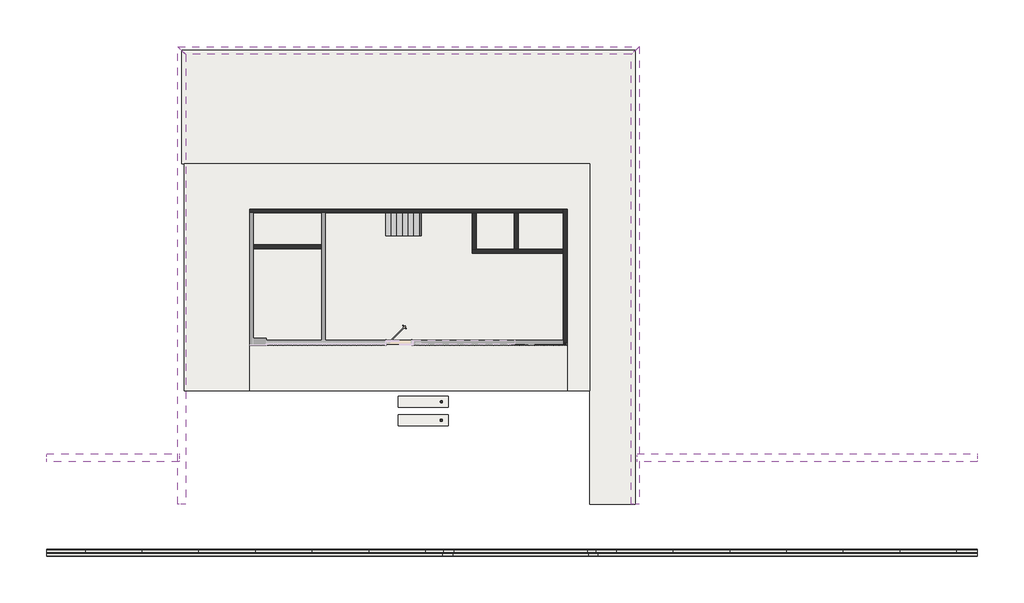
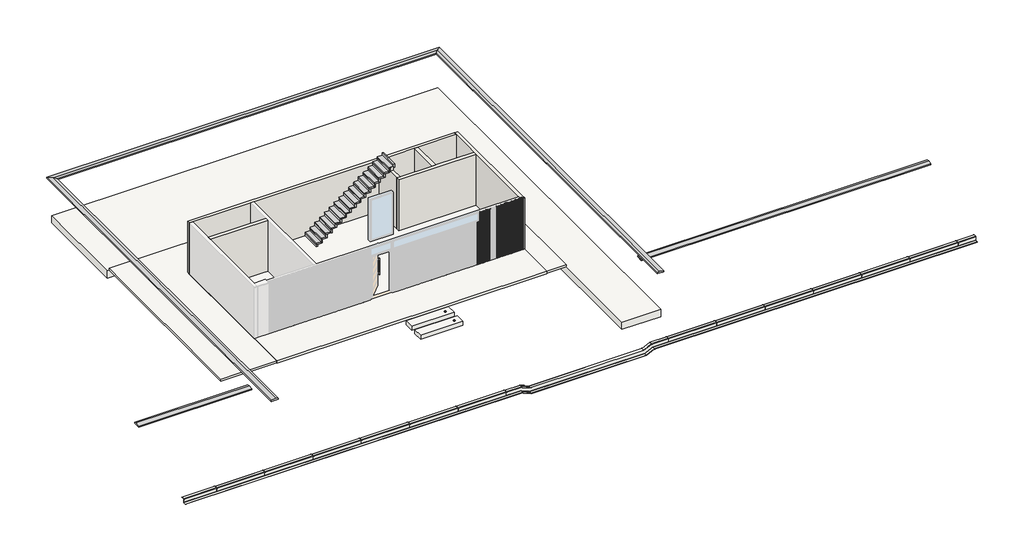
# One storey, part 4 of 4: 36 members, 34 plates, 6 slabs, 6 walls, 5 proxies, 2 light fixtures, 1 stair flight.
"""IFC4 building model written with IfcOpenShell, lengths in millimetres."""

from ifc_helpers import new_model, si_unit, point, frame, frame_2d, origin, origin_with_axes, place, context, project, spatial, polyline, circle_curve, trimmed, segment, composite_curve, outline, extrude, faceted_brep, transform, mapped, element, save
from ifc_brep_helpers import plane_surface, revolved_surface, advanced_brep
from components import light_fixture_10b4d906, montante_retangular_912e170b, montante_retangular_66be1dba, painel_do_sistema_vazio_vazio_cd5fe1bf, painel_do_sistema_vazio_vazio_22f7d0d9, painel_do_sistema_vazio_vazio_0f527706, painel_do_sistema_vazio_vazio_7123cc3e, pisos_1_pisos_1_989e87d9, stair_flight_7ba0d2e9

model = new_model("IFC4")

# Units and contexts
model_context = context("Model", 3, world=origin())
ifc_project = project(units=[si_unit("LENGTHUNIT", "METRE", prefix="MILLI")], contexts=[model_context])

# Site, building, storey
site = spatial("IfcSite", under=ifc_project)
building = spatial("IfcBuilding", under=site)
storey = spatial("IfcBuildingStorey", under=building, Name="TÉRREO", Elevation=100.0)

# Proxies
placement = place(None, origin())
element("IfcBuildingElementProxy", 1, Name="Wall Sweeps", at=placement, inside=storey, context=model_context, shape_type="Brep", body=[
    faceted_brep([(-16651.5118355, -8375.3717183, 1561.9), (-16651.5118355, -8375.3717183, 1500.0), (-16651.5118355, -8320.3717183, 1500.0), (-16651.5118355, -8100.3717183, 1500.0), (-16651.5118355, -8025.3717183, 1500.0), (-16651.5118355, -8025.3717183, 1561.9), (-16651.5118355, -8151.9717183, 1600.0), (-22493.1118355, -8375.3717183, 1561.9), (-22493.1118355, -8151.9717183, 1600.0), (-22493.1118355, -8025.3717183, 1561.9), (-22493.1118355, -8025.3717183, 1500.0), (-22493.1118355, -8100.3717183, 1500.0), (-22493.1118355, -8320.3717183, 1500.0), (-22493.1118355, -8375.3717183, 1500.0)], [[[0, 1, 2, 3, 4, 5, 6]], [[7, 8, 9, 10, 11, 12, 13]], [[1, 0, 7, 13]], [[4, 3, 2, 1, 13, 12, 11, 10]], [[5, 4, 10, 9]], [[6, 5, 9, 8]], [[0, 6, 8, 7]]]),
])
element("IfcBuildingElementProxy", 2, Name="Wall Sweeps", at=placement, inside=storey, context=model_context, shape_type="Brep", body=[
    faceted_brep([(3539.0313852, -8375.3717183, 1561.9), (3539.0313852, -8151.9717183, 1600.0), (3539.0313852, -8025.3717183, 1561.9), (3539.0313852, -8025.3717183, 1500.0), (3539.0313852, -8375.3717183, 1500.0), (18539.0313852, -8375.3717183, 1561.9), (18539.0313852, -8375.3717183, 1500.0), (18539.0313852, -8320.3717183, 1500.0), (18539.0313852, -8100.3717183, 1500.0), (18539.0313852, -8025.3717183, 1500.0), (18539.0313852, -8025.3717183, 1561.9), (18539.0313852, -8151.9717183, 1600.0)], [[[0, 1, 2, 3, 4]], [[5, 6, 7, 8, 9, 10, 11]], [[0, 4, 6, 5]], [[4, 3, 9, 8, 7, 6]], [[3, 2, 10, 9]], [[2, 1, 11, 10]], [[1, 0, 5, 11]]]),
])
element("IfcBuildingElementProxy", 3, Name="Wall Sweeps", at=placement, inside=storey, context=model_context, shape_type="Brep", body=[
    faceted_brep([(-16706.5118355, -10233.9118273, 2061.9), (-16706.5118355, -10233.9118273, 2000.0), (-16651.5118355, -10233.9118273, 2000.0), (-16431.5118355, -10233.9118273, 2000.0), (-16356.5118355, -10233.9118273, 2000.0), (-16356.5118355, -10233.9118273, 2061.9), (-16483.1118355, -10233.9118273, 2100.0), (-16706.5118355, 9931.0881727, 2061.9), (-16483.1118355, 9707.6881727, 2100.0), (-16356.5118355, 9581.0881727, 2061.9), (-16356.5118355, 9581.0881727, 2000.0), (-16706.5118355, 9931.0881727, 2000.0)], [[[0, 1, 2, 3, 4, 5, 6]], [[7, 8, 9, 10, 11]], [[1, 0, 7, 11]], [[4, 3, 2, 1, 11, 10]], [[5, 4, 10, 9]], [[6, 5, 9, 8]], [[0, 6, 8, 7]]]),
])
element("IfcBuildingElementProxy", 4, Name="Wall Sweeps", at=placement, inside=storey, context=model_context, shape_type="Brep", body=[
    faceted_brep([(-16706.5118355, 9931.0881727, 2061.9), (-16706.5118355, 9931.0881727, 2000.0), (-16356.5118355, 9581.0881727, 2000.0), (-16356.5118355, 9581.0881727, 2061.9), (-16483.1118355, 9707.6881727, 2100.0), (3623.4881645, 9931.0881727, 2061.9), (3400.0881645, 9707.6881727, 2100.0), (3273.4881645, 9581.0881727, 2061.9), (3273.4881645, 9581.0881727, 2000.0), (3623.4881645, 9931.0881727, 2000.0)], [[[0, 1, 2, 3, 4]], [[5, 6, 7, 8, 9]], [[1, 0, 5, 9]], [[2, 1, 9, 8]], [[3, 2, 8, 7]], [[4, 3, 7, 6]], [[0, 4, 6, 5]]]),
])
element("IfcBuildingElementProxy", 5, Name="Wall Sweeps", at=placement, inside=storey, context=model_context, shape_type="Brep", body=[
    faceted_brep([(3623.4881645, 9931.0881727, 2061.9), (3623.4881645, 9931.0881727, 2000.0), (3273.4881645, 9581.0881727, 2000.0), (3273.4881645, 9581.0881727, 2061.9), (3400.0881645, 9707.6881727, 2100.0), (3623.4881645, -10233.9118273, 2061.9), (3400.0881645, -10233.9118273, 2100.0), (3273.4881645, -10233.9118273, 2061.9), (3273.4881645, -10233.9118273, 2000.0), (3348.4881645, -10233.9118273, 2000.0), (3568.4881645, -10233.9118273, 2000.0), (3623.4881645, -10233.9118273, 2000.0)], [[[0, 1, 2, 3, 4]], [[5, 6, 7, 8, 9, 10, 11]], [[1, 0, 5, 11]], [[2, 1, 11, 10, 9, 8]], [[3, 2, 8, 7]], [[4, 3, 7, 6]], [[0, 4, 6, 5]]]),
])

# Light fixtures
light_fixture_shape = light_fixture_10b4d906(model_context)
element("IfcLightFixture", 6, ObjectType="Iluminação de caminho - Redonda embutida - Com base no chão : Iluminação de caminho - Redonda embutida - Com base no chão", at=placement, inside=storey, context=model_context, shape_type="MappedRepresentation", body=[
    mapped(light_fixture_shape, transform((-5091.5118355, -5727.3839203, 130.0), x_axis=(1.0, 0.0, 0.0), y_axis=(0.0, 1.0, 0.0), z_axis=(0.0, 0.0, 1.0))),
])
element("IfcLightFixture", 7, ObjectType="Iluminação de caminho - Redonda embutida - Com base no chão : Iluminação de caminho - Redonda embutida - Com base no chão", at=placement, inside=storey, context=model_context, shape_type="MappedRepresentation", body=[
    mapped(light_fixture_shape, transform((-5096.5118355, -6538.3839203, 130.0), x_axis=(1.0, 0.0, 0.0), y_axis=(0.0, 1.0, 0.0), z_axis=(0.0, 0.0, 1.0))),
])

# Members
montante_retangular_shape = montante_retangular_912e170b(model_context)
element("IfcMember", 8, ObjectType="Montante retangular : RIPADO CUMARU 4x4", at=placement, inside=storey, context=model_context, shape_type="MappedRepresentation", body=[
    mapped(montante_retangular_shape, transform((-986.5118358, -3183.0556256, 100.0), x_axis=(1.0, 0.0, 0.0), y_axis=(0.0, -1.0, 0.0), z_axis=(0.0, 0.0, -1.0))),
])
element("IfcMember", 9, ObjectType="Montante retangular : RIPADO CUMARU 4x4", at=placement, inside=storey, context=model_context, shape_type="MappedRepresentation", body=[
    mapped(montante_retangular_shape, transform((-926.5118358, -3183.0556256, 100.0), x_axis=(1.0, 0.0, 0.0), y_axis=(0.0, -1.0, 0.0), z_axis=(0.0, 0.0, -1.0))),
])
element("IfcMember", 10, ObjectType="Montante retangular : RIPADO CUMARU 4x4", at=placement, inside=storey, context=model_context, shape_type="MappedRepresentation", body=[
    mapped(montante_retangular_shape, transform((-866.5118358, -3183.0556256, 100.0), x_axis=(1.0, 0.0, 0.0), y_axis=(0.0, -1.0, 0.0), z_axis=(0.0, 0.0, -1.0))),
])
element("IfcMember", 11, ObjectType="Montante retangular : RIPADO CUMARU 4x4", at=placement, inside=storey, context=model_context, shape_type="MappedRepresentation", body=[
    mapped(montante_retangular_shape, transform((-806.5118358, -3183.0556256, 100.0), x_axis=(1.0, 0.0, 0.0), y_axis=(0.0, -1.0, 0.0), z_axis=(0.0, 0.0, -1.0))),
])
element("IfcMember", 12, ObjectType="Montante retangular : RIPADO CUMARU 4x4", at=placement, inside=storey, context=model_context, shape_type="MappedRepresentation", body=[
    mapped(montante_retangular_shape, transform((-746.5118358, -3183.0556256, 100.0), x_axis=(1.0, 0.0, 0.0), y_axis=(0.0, -1.0, 0.0), z_axis=(0.0, 0.0, -1.0))),
])
element("IfcMember", 13, ObjectType="Montante retangular : RIPADO CUMARU 4x4", at=placement, inside=storey, context=model_context, shape_type="MappedRepresentation", body=[
    mapped(montante_retangular_shape, transform((-686.5118358, -3183.0556256, 100.0), x_axis=(1.0, 0.0, 0.0), y_axis=(0.0, -1.0, 0.0), z_axis=(0.0, 0.0, -1.0))),
])
element("IfcMember", 14, ObjectType="Montante retangular : RIPADO CUMARU 4x4", at=placement, inside=storey, context=model_context, shape_type="MappedRepresentation", body=[
    mapped(montante_retangular_shape, transform((-626.5118358, -3183.0556256, 100.0), x_axis=(1.0, 0.0, 0.0), y_axis=(0.0, -1.0, 0.0), z_axis=(0.0, 0.0, -1.0))),
])
element("IfcMember", 15, ObjectType="Montante retangular : RIPADO CUMARU 4x4", at=placement, inside=storey, context=model_context, shape_type="MappedRepresentation", body=[
    mapped(montante_retangular_shape, transform((-566.5118358, -3183.0556256, 100.0), x_axis=(1.0, 0.0, 0.0), y_axis=(0.0, -1.0, 0.0), z_axis=(0.0, 0.0, -1.0))),
])
element("IfcMember", 16, ObjectType="Montante retangular : RIPADO CUMARU 4x4", at=placement, inside=storey, context=model_context, shape_type="MappedRepresentation", body=[
    mapped(montante_retangular_shape, transform((-506.5118358, -3183.0556256, 100.0), x_axis=(1.0, 0.0, 0.0), y_axis=(0.0, -1.0, 0.0), z_axis=(0.0, 0.0, -1.0))),
])
element("IfcMember", 17, ObjectType="Montante retangular : RIPADO CUMARU 4x4", at=placement, inside=storey, context=model_context, shape_type="MappedRepresentation", body=[
    mapped(montante_retangular_shape, transform((-446.5118358, -3183.0556256, 100.0), x_axis=(1.0, 0.0, 0.0), y_axis=(0.0, -1.0, 0.0), z_axis=(0.0, 0.0, -1.0))),
])
element("IfcMember", 18, ObjectType="Montante retangular : RIPADO CUMARU 4x4", at=placement, inside=storey, context=model_context, shape_type="MappedRepresentation", body=[
    mapped(montante_retangular_shape, transform((-386.5118358, -3183.0556256, 100.0), x_axis=(1.0, 0.0, 0.0), y_axis=(0.0, -1.0, 0.0), z_axis=(0.0, 0.0, -1.0))),
])
element("IfcMember", 19, ObjectType="Montante retangular : RIPADO CUMARU 4x4", at=placement, inside=storey, context=model_context, shape_type="MappedRepresentation", body=[
    mapped(montante_retangular_shape, transform((-326.5118358, -3183.0556256, 100.0), x_axis=(1.0, 0.0, 0.0), y_axis=(0.0, -1.0, 0.0), z_axis=(0.0, 0.0, -1.0))),
])
element("IfcMember", 20, ObjectType="Montante retangular : RIPADO CUMARU 4x4", at=placement, inside=storey, context=model_context, shape_type="MappedRepresentation", body=[
    mapped(montante_retangular_shape, transform((-266.5118358, -3183.0556256, 100.0), x_axis=(1.0, 0.0, 0.0), y_axis=(0.0, -1.0, 0.0), z_axis=(0.0, 0.0, -1.0))),
])
element("IfcMember", 21, ObjectType="Montante retangular : RIPADO CUMARU 4x4", at=placement, inside=storey, context=model_context, shape_type="MappedRepresentation", body=[
    mapped(montante_retangular_shape, transform((-206.5118358, -3183.0556256, 100.0), x_axis=(1.0, 0.0, 0.0), y_axis=(0.0, -1.0, 0.0), z_axis=(0.0, 0.0, -1.0))),
])
element("IfcMember", 22, ObjectType="Montante retangular : RIPADO CUMARU 4x4", at=placement, inside=storey, context=model_context, shape_type="MappedRepresentation", body=[
    mapped(montante_retangular_shape, transform((-146.5118358, -3183.0556256, 100.0), x_axis=(1.0, 0.0, 0.0), y_axis=(0.0, -1.0, 0.0), z_axis=(0.0, 0.0, -1.0))),
])
element("IfcMember", 23, ObjectType="Montante retangular : RIPADO CUMARU 4x4", at=placement, inside=storey, context=model_context, shape_type="MappedRepresentation", body=[
    mapped(montante_retangular_shape, transform((-86.5118358, -3183.0556256, 100.0), x_axis=(1.0, 0.0, 0.0), y_axis=(0.0, -1.0, 0.0), z_axis=(0.0, 0.0, -1.0))),
])
element("IfcMember", 24, ObjectType="Montante retangular : RIPADO CUMARU 4x4", at=placement, inside=storey, context=model_context, shape_type="MappedRepresentation", body=[
    mapped(montante_retangular_shape, transform((-26.5118358, -3183.0556256, 100.0), x_axis=(1.0, 0.0, 0.0), y_axis=(0.0, -1.0, 0.0), z_axis=(0.0, 0.0, -1.0))),
])
element("IfcMember", 25, ObjectType="Montante retangular : RIPADO CUMARU 4x4", at=placement, inside=storey, context=model_context, shape_type="MappedRepresentation", body=[
    mapped(montante_retangular_shape, transform((33.4881642, -3183.0556256, 100.0), x_axis=(1.0, 0.0, 0.0), y_axis=(0.0, -1.0, 0.0), z_axis=(0.0, 0.0, -1.0))),
])
element("IfcMember", 26, ObjectType="Montante retangular : RIPADO CUMARU 4x4", at=placement, inside=storey, context=model_context, shape_type="MappedRepresentation", body=[
    mapped(montante_retangular_shape, transform((93.4881642, -3183.0556256, 100.0), x_axis=(1.0, 0.0, 0.0), y_axis=(0.0, -1.0, 0.0), z_axis=(0.0, 0.0, -1.0))),
])
element("IfcMember", 27, ObjectType="Montante retangular : RIPADO CUMARU 4x4", at=placement, inside=storey, context=model_context, shape_type="MappedRepresentation", body=[
    mapped(montante_retangular_shape, transform((153.4881642, -3183.0556256, 100.0), x_axis=(1.0, 0.0, 0.0), y_axis=(0.0, -1.0, 0.0), z_axis=(0.0, 0.0, -1.0))),
])
element("IfcMember", 28, ObjectType="Montante retangular : RIPADO CUMARU 4x4", at=placement, inside=storey, context=model_context, shape_type="MappedRepresentation", body=[
    mapped(montante_retangular_shape, transform((213.4881642, -3183.0556256, 100.0), x_axis=(1.0, 0.0, 0.0), y_axis=(0.0, -1.0, 0.0), z_axis=(0.0, 0.0, -1.0))),
])
element("IfcMember", 29, ObjectType="Montante retangular : RIPADO CUMARU 4x4", at=placement, inside=storey, context=model_context, shape_type="MappedRepresentation", body=[
    mapped(montante_retangular_shape, transform((273.4881642, -3183.0556256, 100.0), x_axis=(1.0, 0.0, 0.0), y_axis=(0.0, -1.0, 0.0), z_axis=(0.0, 0.0, -1.0))),
])
element("IfcMember", 30, ObjectType="Montante retangular : RIPADO CUMARU 4x4", at=placement, inside=storey, context=model_context, shape_type="MappedRepresentation", body=[
    mapped(montante_retangular_shape, transform((333.4881642, -3183.0556256, 100.0), x_axis=(1.0, 0.0, 0.0), y_axis=(0.0, -1.0, 0.0), z_axis=(0.0, 0.0, -1.0))),
])
element("IfcMember", 31, ObjectType="Montante retangular : RIPADO CUMARU 4x4", at=placement, inside=storey, context=model_context, shape_type="MappedRepresentation", body=[
    mapped(montante_retangular_shape, transform((393.4881642, -3183.0556256, 100.0), x_axis=(1.0, 0.0, 0.0), y_axis=(0.0, -1.0, 0.0), z_axis=(0.0, 0.0, -1.0))),
])
element("IfcMember", 32, ObjectType="Montante retangular : RIPADO CUMARU 4x4", at=placement, inside=storey, context=model_context, shape_type="MappedRepresentation", body=[
    mapped(montante_retangular_shape, transform((-1286.5118358, -3183.0556256, 100.0), x_axis=(1.0, 0.0, 0.0), y_axis=(0.0, -1.0, 0.0), z_axis=(0.0, 0.0, -1.0))),
])
element("IfcMember", 33, ObjectType="Montante retangular : RIPADO CUMARU 4x4", at=placement, inside=storey, context=model_context, shape_type="MappedRepresentation", body=[
    mapped(montante_retangular_shape, transform((-1346.5118358, -3183.0556256, 100.0), x_axis=(1.0, 0.0, 0.0), y_axis=(0.0, -1.0, 0.0), z_axis=(0.0, 0.0, -1.0))),
])
element("IfcMember", 34, ObjectType="Montante retangular : RIPADO CUMARU 4x4", at=placement, inside=storey, context=model_context, shape_type="MappedRepresentation", body=[
    mapped(montante_retangular_shape, transform((-1406.5118358, -3183.0556256, 100.0), x_axis=(1.0, 0.0, 0.0), y_axis=(0.0, -1.0, 0.0), z_axis=(0.0, 0.0, -1.0))),
])
element("IfcMember", 35, ObjectType="Montante retangular : RIPADO CUMARU 4x4", at=placement, inside=storey, context=model_context, shape_type="MappedRepresentation", body=[
    mapped(montante_retangular_shape, transform((-1466.5118358, -3183.0556256, 100.0), x_axis=(1.0, 0.0, 0.0), y_axis=(0.0, -1.0, 0.0), z_axis=(0.0, 0.0, -1.0))),
])
element("IfcMember", 36, ObjectType="Montante retangular : RIPADO CUMARU 4x4", at=placement, inside=storey, context=model_context, shape_type="MappedRepresentation", body=[
    mapped(montante_retangular_shape, transform((-1526.5118358, -3183.0556256, 100.0), x_axis=(1.0, 0.0, 0.0), y_axis=(0.0, -1.0, 0.0), z_axis=(0.0, 0.0, -1.0))),
])
element("IfcMember", 37, ObjectType="Montante retangular : RIPADO CUMARU 4x4", at=placement, inside=storey, context=model_context, shape_type="MappedRepresentation", body=[
    mapped(montante_retangular_shape, transform((-1586.5118358, -3183.0556256, 100.0), x_axis=(1.0, 0.0, 0.0), y_axis=(0.0, -1.0, 0.0), z_axis=(0.0, 0.0, -1.0))),
])
element("IfcMember", 38, ObjectType="Montante retangular : RIPADO CUMARU 4x4", at=placement, inside=storey, context=model_context, shape_type="MappedRepresentation", body=[
    mapped(montante_retangular_shape, transform((-1646.5118358, -3183.0556256, 100.0), x_axis=(1.0, 0.0, 0.0), y_axis=(0.0, -1.0, 0.0), z_axis=(0.0, 0.0, -1.0))),
])
element("IfcMember", 39, ObjectType="Montante retangular : RIPADO CUMARU 4x4", at=placement, inside=storey, context=model_context, shape_type="MappedRepresentation", body=[
    mapped(montante_retangular_shape, transform((-1706.5118358, -3183.0556256, 100.0), x_axis=(1.0, 0.0, 0.0), y_axis=(0.0, -1.0, 0.0), z_axis=(0.0, 0.0, -1.0))),
])
element("IfcMember", 40, ObjectType="Montante retangular : RIPADO CUMARU 4x4", at=placement, inside=storey, context=model_context, shape_type="MappedRepresentation", body=[
    mapped(montante_retangular_shape, transform((-1766.5118358, -3183.0556256, 100.0), x_axis=(1.0, 0.0, 0.0), y_axis=(0.0, -1.0, 0.0), z_axis=(0.0, 0.0, -1.0))),
])
element("IfcMember", 41, ObjectType="Montante retangular : RIPADO CUMARU 4x4", at=placement, inside=storey, context=model_context, shape_type="MappedRepresentation", body=[
    mapped(montante_retangular_shape, transform((-1826.5118358, -3183.0556256, 100.0), x_axis=(1.0, 0.0, 0.0), y_axis=(0.0, -1.0, 0.0), z_axis=(0.0, 0.0, -1.0))),
])
montante_retangular_2_shape = montante_retangular_66be1dba(model_context)
element("IfcMember", 42, ObjectType="Montante retangular : RIPADO CUMARU 4x4", at=placement, inside=storey, context=model_context, shape_type="MappedRepresentation", body=[
    mapped(montante_retangular_2_shape, transform((-1951.5118352, -3183.0556256, 100.0), x_axis=(1.0, 0.0, 0.0), y_axis=(0.0, -1.0, 0.0), z_axis=(0.0, 0.0, -1.0))),
])
element("IfcMember", 43, ObjectType="Montante retangular : RIPADO CUMARU 4x4", at=placement, inside=storey, context=model_context, shape_type="MappedRepresentation", body=[
    mapped(montante_retangular_2_shape, transform((-1891.5118352, -3183.0556256, 100.0), x_axis=(1.0, 0.0, 0.0), y_axis=(0.0, -1.0, 0.0), z_axis=(0.0, 0.0, -1.0))),
])

# Plates
painel_do_sistema_vazio_vazio_shape = painel_do_sistema_vazio_vazio_cd5fe1bf(model_context)
element("IfcPlate", 44, ObjectType="Painel do sistema vazio : Vazio", at=placement, inside=storey, context=model_context, shape_type="MappedRepresentation", body=[
    mapped(painel_do_sistema_vazio_vazio_shape, transform((433.4881643, -3183.0556256, 100.0), x_axis=(1.0, 0.0, 0.0), y_axis=(0.0, 1.0, 0.0), z_axis=(0.0, 0.0, 1.0))),
])
painel_do_sistema_vazio_vazio_2_shape = painel_do_sistema_vazio_vazio_22f7d0d9(model_context)
element("IfcPlate", 45, ObjectType="Painel do sistema vazio : Vazio", at=placement, inside=storey, context=model_context, shape_type="MappedRepresentation", body=[
    mapped(painel_do_sistema_vazio_vazio_2_shape, transform((-956.5118358, -3183.0556256, 100.0), x_axis=(1.0, 0.0, 0.0), y_axis=(0.0, 1.0, 0.0), z_axis=(0.0, 0.0, 1.0))),
])
element("IfcPlate", 46, ObjectType="Painel do sistema vazio : Vazio", at=placement, inside=storey, context=model_context, shape_type="MappedRepresentation", body=[
    mapped(painel_do_sistema_vazio_vazio_2_shape, transform((-896.5118358, -3183.0556256, 100.0), x_axis=(1.0, 0.0, 0.0), y_axis=(0.0, 1.0, 0.0), z_axis=(0.0, 0.0, 1.0))),
])
element("IfcPlate", 47, ObjectType="Painel do sistema vazio : Vazio", at=placement, inside=storey, context=model_context, shape_type="MappedRepresentation", body=[
    mapped(painel_do_sistema_vazio_vazio_2_shape, transform((-836.5118358, -3183.0556256, 100.0), x_axis=(1.0, 0.0, 0.0), y_axis=(0.0, 1.0, 0.0), z_axis=(0.0, 0.0, 1.0))),
])
element("IfcPlate", 48, ObjectType="Painel do sistema vazio : Vazio", at=placement, inside=storey, context=model_context, shape_type="MappedRepresentation", body=[
    mapped(painel_do_sistema_vazio_vazio_2_shape, transform((-776.5118358, -3183.0556256, 100.0), x_axis=(1.0, 0.0, 0.0), y_axis=(0.0, 1.0, 0.0), z_axis=(0.0, 0.0, 1.0))),
])
element("IfcPlate", 49, ObjectType="Painel do sistema vazio : Vazio", at=placement, inside=storey, context=model_context, shape_type="MappedRepresentation", body=[
    mapped(painel_do_sistema_vazio_vazio_2_shape, transform((-716.5118358, -3183.0556256, 100.0), x_axis=(1.0, 0.0, 0.0), y_axis=(0.0, 1.0, 0.0), z_axis=(0.0, 0.0, 1.0))),
])
element("IfcPlate", 50, ObjectType="Painel do sistema vazio : Vazio", at=placement, inside=storey, context=model_context, shape_type="MappedRepresentation", body=[
    mapped(painel_do_sistema_vazio_vazio_2_shape, transform((-656.5118358, -3183.0556256, 100.0), x_axis=(1.0, 0.0, 0.0), y_axis=(0.0, 1.0, 0.0), z_axis=(0.0, 0.0, 1.0))),
])
element("IfcPlate", 51, ObjectType="Painel do sistema vazio : Vazio", at=placement, inside=storey, context=model_context, shape_type="MappedRepresentation", body=[
    mapped(painel_do_sistema_vazio_vazio_2_shape, transform((-596.5118358, -3183.0556256, 100.0), x_axis=(1.0, 0.0, 0.0), y_axis=(0.0, 1.0, 0.0), z_axis=(0.0, 0.0, 1.0))),
])
element("IfcPlate", 52, ObjectType="Painel do sistema vazio : Vazio", at=placement, inside=storey, context=model_context, shape_type="MappedRepresentation", body=[
    mapped(painel_do_sistema_vazio_vazio_2_shape, transform((-536.5118358, -3183.0556256, 100.0), x_axis=(1.0, 0.0, 0.0), y_axis=(0.0, 1.0, 0.0), z_axis=(0.0, 0.0, 1.0))),
])
element("IfcPlate", 53, ObjectType="Painel do sistema vazio : Vazio", at=placement, inside=storey, context=model_context, shape_type="MappedRepresentation", body=[
    mapped(painel_do_sistema_vazio_vazio_2_shape, transform((-476.5118358, -3183.0556256, 100.0), x_axis=(1.0, 0.0, 0.0), y_axis=(0.0, 1.0, 0.0), z_axis=(0.0, 0.0, 1.0))),
])
element("IfcPlate", 54, ObjectType="Painel do sistema vazio : Vazio", at=placement, inside=storey, context=model_context, shape_type="MappedRepresentation", body=[
    mapped(painel_do_sistema_vazio_vazio_2_shape, transform((-416.5118358, -3183.0556256, 100.0), x_axis=(1.0, 0.0, 0.0), y_axis=(0.0, 1.0, 0.0), z_axis=(0.0, 0.0, 1.0))),
])
element("IfcPlate", 55, ObjectType="Painel do sistema vazio : Vazio", at=placement, inside=storey, context=model_context, shape_type="MappedRepresentation", body=[
    mapped(painel_do_sistema_vazio_vazio_2_shape, transform((-356.5118358, -3183.0556256, 100.0), x_axis=(1.0, 0.0, 0.0), y_axis=(0.0, 1.0, 0.0), z_axis=(0.0, 0.0, 1.0))),
])
element("IfcPlate", 56, ObjectType="Painel do sistema vazio : Vazio", at=placement, inside=storey, context=model_context, shape_type="MappedRepresentation", body=[
    mapped(painel_do_sistema_vazio_vazio_2_shape, transform((-296.5118358, -3183.0556256, 100.0), x_axis=(1.0, 0.0, 0.0), y_axis=(0.0, 1.0, 0.0), z_axis=(0.0, 0.0, 1.0))),
])
element("IfcPlate", 57, ObjectType="Painel do sistema vazio : Vazio", at=placement, inside=storey, context=model_context, shape_type="MappedRepresentation", body=[
    mapped(painel_do_sistema_vazio_vazio_2_shape, transform((-236.5118358, -3183.0556256, 100.0), x_axis=(1.0, 0.0, 0.0), y_axis=(0.0, 1.0, 0.0), z_axis=(0.0, 0.0, 1.0))),
])
element("IfcPlate", 58, ObjectType="Painel do sistema vazio : Vazio", at=placement, inside=storey, context=model_context, shape_type="MappedRepresentation", body=[
    mapped(painel_do_sistema_vazio_vazio_2_shape, transform((-176.5118358, -3183.0556256, 100.0), x_axis=(1.0, 0.0, 0.0), y_axis=(0.0, 1.0, 0.0), z_axis=(0.0, 0.0, 1.0))),
])
element("IfcPlate", 59, ObjectType="Painel do sistema vazio : Vazio", at=placement, inside=storey, context=model_context, shape_type="MappedRepresentation", body=[
    mapped(painel_do_sistema_vazio_vazio_2_shape, transform((-116.5118358, -3183.0556256, 100.0), x_axis=(1.0, 0.0, 0.0), y_axis=(0.0, 1.0, 0.0), z_axis=(0.0, 0.0, 1.0))),
])
element("IfcPlate", 60, ObjectType="Painel do sistema vazio : Vazio", at=placement, inside=storey, context=model_context, shape_type="MappedRepresentation", body=[
    mapped(painel_do_sistema_vazio_vazio_2_shape, transform((-56.5118358, -3183.0556256, 100.0), x_axis=(1.0, 0.0, 0.0), y_axis=(0.0, 1.0, 0.0), z_axis=(0.0, 0.0, 1.0))),
])
element("IfcPlate", 61, ObjectType="Painel do sistema vazio : Vazio", at=placement, inside=storey, context=model_context, shape_type="MappedRepresentation", body=[
    mapped(painel_do_sistema_vazio_vazio_2_shape, transform((3.4881642, -3183.0556256, 100.0), x_axis=(1.0, 0.0, 0.0), y_axis=(0.0, 1.0, 0.0), z_axis=(0.0, 0.0, 1.0))),
])
element("IfcPlate", 62, ObjectType="Painel do sistema vazio : Vazio", at=placement, inside=storey, context=model_context, shape_type="MappedRepresentation", body=[
    mapped(painel_do_sistema_vazio_vazio_2_shape, transform((63.4881642, -3183.0556256, 100.0), x_axis=(1.0, 0.0, 0.0), y_axis=(0.0, 1.0, 0.0), z_axis=(0.0, 0.0, 1.0))),
])
element("IfcPlate", 63, ObjectType="Painel do sistema vazio : Vazio", at=placement, inside=storey, context=model_context, shape_type="MappedRepresentation", body=[
    mapped(painel_do_sistema_vazio_vazio_2_shape, transform((123.4881642, -3183.0556256, 100.0), x_axis=(1.0, 0.0, 0.0), y_axis=(0.0, 1.0, 0.0), z_axis=(0.0, 0.0, 1.0))),
])
element("IfcPlate", 64, ObjectType="Painel do sistema vazio : Vazio", at=placement, inside=storey, context=model_context, shape_type="MappedRepresentation", body=[
    mapped(painel_do_sistema_vazio_vazio_2_shape, transform((183.4881642, -3183.0556256, 100.0), x_axis=(1.0, 0.0, 0.0), y_axis=(0.0, 1.0, 0.0), z_axis=(0.0, 0.0, 1.0))),
])
element("IfcPlate", 65, ObjectType="Painel do sistema vazio : Vazio", at=placement, inside=storey, context=model_context, shape_type="MappedRepresentation", body=[
    mapped(painel_do_sistema_vazio_vazio_2_shape, transform((243.4881642, -3183.0556256, 100.0), x_axis=(1.0, 0.0, 0.0), y_axis=(0.0, 1.0, 0.0), z_axis=(0.0, 0.0, 1.0))),
])
element("IfcPlate", 66, ObjectType="Painel do sistema vazio : Vazio", at=placement, inside=storey, context=model_context, shape_type="MappedRepresentation", body=[
    mapped(painel_do_sistema_vazio_vazio_2_shape, transform((303.4881642, -3183.0556256, 100.0), x_axis=(1.0, 0.0, 0.0), y_axis=(0.0, 1.0, 0.0), z_axis=(0.0, 0.0, 1.0))),
])
element("IfcPlate", 67, ObjectType="Painel do sistema vazio : Vazio", at=placement, inside=storey, context=model_context, shape_type="MappedRepresentation", body=[
    mapped(painel_do_sistema_vazio_vazio_2_shape, transform((363.4881642, -3183.0556256, 100.0), x_axis=(1.0, 0.0, 0.0), y_axis=(0.0, 1.0, 0.0), z_axis=(0.0, 0.0, 1.0))),
])
element("IfcPlate", 68, ObjectType="Painel do sistema vazio : Vazio", at=placement, inside=storey, context=model_context, shape_type="MappedRepresentation", body=[
    mapped(painel_do_sistema_vazio_vazio_2_shape, transform((-1436.5118358, -3183.0556256, 100.0), x_axis=(1.0, 0.0, 0.0), y_axis=(0.0, 1.0, 0.0), z_axis=(0.0, 0.0, 1.0))),
])
element("IfcPlate", 69, ObjectType="Painel do sistema vazio : Vazio", at=placement, inside=storey, context=model_context, shape_type="MappedRepresentation", body=[
    mapped(painel_do_sistema_vazio_vazio_2_shape, transform((-1496.5118358, -3183.0556256, 100.0), x_axis=(1.0, 0.0, 0.0), y_axis=(0.0, 1.0, 0.0), z_axis=(0.0, 0.0, 1.0))),
])
element("IfcPlate", 70, ObjectType="Painel do sistema vazio : Vazio", at=placement, inside=storey, context=model_context, shape_type="MappedRepresentation", body=[
    mapped(painel_do_sistema_vazio_vazio_2_shape, transform((-1556.5118358, -3183.0556256, 100.0), x_axis=(1.0, 0.0, 0.0), y_axis=(0.0, 1.0, 0.0), z_axis=(0.0, 0.0, 1.0))),
])
element("IfcPlate", 71, ObjectType="Painel do sistema vazio : Vazio", at=placement, inside=storey, context=model_context, shape_type="MappedRepresentation", body=[
    mapped(painel_do_sistema_vazio_vazio_2_shape, transform((-1616.5118358, -3183.0556256, 100.0), x_axis=(1.0, 0.0, 0.0), y_axis=(0.0, 1.0, 0.0), z_axis=(0.0, 0.0, 1.0))),
])
element("IfcPlate", 72, ObjectType="Painel do sistema vazio : Vazio", at=placement, inside=storey, context=model_context, shape_type="MappedRepresentation", body=[
    mapped(painel_do_sistema_vazio_vazio_2_shape, transform((-1676.5118358, -3183.0556256, 100.0), x_axis=(1.0, 0.0, 0.0), y_axis=(0.0, 1.0, 0.0), z_axis=(0.0, 0.0, 1.0))),
])
element("IfcPlate", 73, ObjectType="Painel do sistema vazio : Vazio", at=placement, inside=storey, context=model_context, shape_type="MappedRepresentation", body=[
    mapped(painel_do_sistema_vazio_vazio_2_shape, transform((-1736.5118358, -3183.0556256, 100.0), x_axis=(1.0, 0.0, 0.0), y_axis=(0.0, 1.0, 0.0), z_axis=(0.0, 0.0, 1.0))),
])
element("IfcPlate", 74, ObjectType="Painel do sistema vazio : Vazio", at=placement, inside=storey, context=model_context, shape_type="MappedRepresentation", body=[
    mapped(painel_do_sistema_vazio_vazio_2_shape, transform((-1796.5118358, -3183.0556256, 100.0), x_axis=(1.0, 0.0, 0.0), y_axis=(0.0, 1.0, 0.0), z_axis=(0.0, 0.0, 1.0))),
])
painel_do_sistema_vazio_vazio_3_shape = painel_do_sistema_vazio_vazio_0f527706(model_context)
element("IfcPlate", 75, ObjectType="Painel do sistema vazio : Vazio", at=placement, inside=storey, context=model_context, shape_type="MappedRepresentation", body=[
    mapped(painel_do_sistema_vazio_vazio_3_shape, transform((-1981.5118352, -3183.0556256, 100.0), x_axis=(1.0, 0.0, 0.0), y_axis=(0.0, 1.0, 0.0), z_axis=(0.0, 0.0, 1.0))),
])
element("IfcPlate", 76, ObjectType="Painel do sistema vazio : Vazio", at=placement, inside=storey, context=model_context, shape_type="MappedRepresentation", body=[
    mapped(painel_do_sistema_vazio_vazio_3_shape, transform((-1921.5118352, -3183.0556256, 100.0), x_axis=(1.0, 0.0, 0.0), y_axis=(0.0, 1.0, 0.0), z_axis=(0.0, 0.0, 1.0))),
])
painel_do_sistema_vazio_vazio_4_shape = painel_do_sistema_vazio_vazio_7123cc3e(model_context)
element("IfcPlate", 77, ObjectType="Painel do sistema vazio : Vazio", at=placement, inside=storey, context=model_context, shape_type="MappedRepresentation", body=[
    mapped(painel_do_sistema_vazio_vazio_4_shape, transform((-1859.0118353, -3183.0556256, 100.0), x_axis=(1.0, 0.0, 0.0), y_axis=(0.0, 1.0, 0.0), z_axis=(0.0, 0.0, 1.0))),
])

# Slabs
element("IfcSlab", 78, ObjectType="Concreto Escuro - 20cm", at=placement, inside=storey, context=model_context, shape_type="AdvancedBrep", body=[
    advanced_brep(
    [(-6982.5518343, -5477.2596302, -70.0), (-4782.5518343, -5477.2596302, -70.0), (-4782.5518343, -5977.2596302, -70.0), (-6982.5518343, -5977.2596302, -70.0), (-5091.5118355, -5778.3839203, -70.0), (-5091.5118355, -5676.3839203, -70.0), (-4782.5518343, -5477.2596302, 130.0), (-6982.5518343, -5477.2596302, 130.0), (-6982.5518343, -5977.2596302, 130.0), (-4782.5518343, -5977.2596302, 130.0), (-5091.5118355, -5676.3839203, 130.0), (-5091.5118355, -5778.3839203, 130.0), (-6982.5518343, -5477.2596302, 0.0), (-4782.5518343, -5977.2596302, 0.0), (-6982.5518343, -5977.2596302, 0.0)],
    [
        (0, 1),
        (1, 2),
        (2, 3),
        (3, 0),
        (4, 5, circle_curve(frame((-5091.5118355, -5727.3839203, -70.0), z_axis=(0.0, 0.0, 1.0), x_axis=(0.0, 1.0, 0.0)), 51.0)),
        (5, 4, circle_curve(frame((-5091.5118355, -5727.3839203, -70.0), z_axis=(0.0, 0.0, 1.0), x_axis=(0.0, 1.0, 0.0)), 51.0)),
        (6, 7),
        (7, 8),
        (8, 9),
        (9, 6),
        (10, 11, circle_curve(frame((-5091.5118355, -5727.3839203, 130.0), z_axis=(0.0, 0.0, -1.0), x_axis=(0.0, 1.0, 0.0)), 51.0)),
        (11, 10, circle_curve(frame((-5091.5118355, -5727.3839203, 130.0), z_axis=(0.0, 0.0, -1.0), x_axis=(0.0, 1.0, 0.0)), 51.0)),
        (0, 12),
        (12, 7),
        (6, 1),
        (9, 13),
        (13, 2),
        (8, 14),
        (14, 3),
        (4, 11),
        (10, 5),
    ],
    [
        plane_surface(frame((-4782.5518343, -5477.2596302, -70.0), z_axis=(0.0, 0.0, -1.0), x_axis=(1.0, 0.0, 0.0))),
        plane_surface(frame((-4782.5518343, -5477.2596302, 130.0), z_axis=(0.0, 0.0, 1.0), x_axis=(-1.0, 0.0, 0.0))),
        plane_surface(frame((-6982.5518343, -5477.2596302, -70.0), z_axis=(0.0, 1.0, 0.0), x_axis=(0.0, 0.0, 1.0))),
        plane_surface(frame((-4782.5518343, -5477.2596302, -70.0), z_axis=(1.0, 0.0, 0.0), x_axis=(0.0, 0.0, 1.0))),
        plane_surface(frame((-4782.5518343, -5977.2596302, -70.0), z_axis=(0.0, -1.0, 0.0), x_axis=(0.0, 0.0, 1.0))),
        plane_surface(frame((-6982.5518343, -5977.2596302, -70.0), z_axis=(-1.0, 0.0, 0.0), x_axis=(0.0, 0.0, 1.0))),
        revolved_surface(polyline([(-5091.5118355, -5676.3839203, 130.0), (-5091.5118355, -5676.3839203, -70.0)]), (-5091.5118355, -5727.3839203, 130.0), (0.0, 0.0, 1.0)),
    ],
    [
        (0, [[1, 2, 3, 4], [5, 6]]),
        (1, [[7, 8, 9, 10], [11, 12]]),
        (2, [[-1, 13, 14, -7, 15]]),
        (3, [[-2, -15, -10, 16, 17]]),
        (4, [[-3, -17, -16, -9, 18, 19]]),
        (5, [[-4, -19, -18, -8, -14, -13]]),
        (6, [[-5, 20, -11, 21]]),
        (6, [[-6, -21, -12, -20]]),
    ],
),
])
element("IfcSlab", 79, ObjectType="Concreto Escuro - 20cm", at=placement, inside=storey, context=model_context, shape_type="SweptSolid", body=[
    extrude(outline(polyline([(-6987.5518343, -6288.2596302), (-4787.5518343, -6288.2596302), (-4787.5518343, -6788.2596302), (-6987.5518343, -6788.2596302), (-6987.5518343, -6288.2596302)]), holes=[composite_curve([segment(trimmed(circle_curve(frame_2d((-5096.5118355, -6538.3839203)), 51.0), [point((-5096.5118355, -6589.3839203))], [point((-5096.5118355, -6487.3839203))], True, "CARTESIAN"), True, "CONTINUOUS"), segment(trimmed(circle_curve(frame_2d((-5096.5118355, -6538.3839203)), 51.0), [point((-5096.5118355, -6487.3839203))], [point((-5096.5118355, -6589.3839203))], True, "CARTESIAN"), True, "CONTINUOUS")], self_intersect=False)]), frame((0.0, 0.0, -70.0), z_axis=(0.0, 0.0, 1.0), x_axis=(1.0, 0.0, 0.0)), (0.0, 0.0, 1.0), 200.0),
])
pisos_1_pisos_1_shape = pisos_1_pisos_1_989e87d9(model_context)
element("IfcSlab", 80, ObjectType="Pisos 1 : Pisos 1", at=placement, inside=storey, context=model_context, shape_type="MappedRepresentation", body=[
    mapped(pisos_1_pisos_1_shape, transform((0.0, 0.0, 0.0), x_axis=(1.0, 0.0, 0.0), y_axis=(0.0, 1.0, 0.0), z_axis=(0.0, 0.0, 1.0))),
])
element("IfcSlab", 81, ObjectType="Porcelanato - Concreto - 15cm", at=placement, inside=storey, context=model_context, shape_type="Brep", body=[
    faceted_brep([(458.4881645, -5233.9118273, -50.0), (-13541.5118355, -5233.9118273, -50.0), (-13541.5118355, 2766.0881727, -50.0), (458.4881645, 2766.0881727, -50.0), (458.4881645, -5233.9118273, 100.0), (458.4881645, -3183.0556256, 100.0), (458.4881645, 2766.0881727, 100.0), (288.4881645, 2766.0881727, 100.0), (-13541.5118355, 2766.0881727, 100.0), (-13541.5118355, 2596.0881727, 100.0), (-13541.5118355, -5233.9118273, 100.0), (458.4881645, -5233.9118273, 0.0), (-13541.5118355, -5233.9118273, 0.0), (-13541.5118355, 2766.0881727, 0.0), (458.4881645, 2766.0881727, 0.0)], [[[0, 1, 2, 3]], [[4, 5, 6, 7, 8, 9, 10]], [[1, 0, 11, 4, 10, 12]], [[2, 1, 12, 10, 9, 8, 13]], [[3, 2, 13, 8, 7, 6, 14]], [[0, 3, 14, 6, 5, 4, 11]]]),
])
element("IfcSlab", 82, ObjectType="pedra", at=placement, inside=storey, context=model_context, shape_type="SweptSolid", body=[
    extrude(outline(polyline([(-16541.5118355, 9766.0881727), (3458.4881645, 9766.0881727), (3458.4881645, -10233.9118273), (1458.4881645, -10233.9118273), (1458.4881645, 4766.0881727), (-16541.5118355, 4766.0881727), (-16541.5118355, 9766.0881727)])), frame((0.0, 0.0, -400.0), z_axis=(0.0, 0.0, 1.0), x_axis=(1.0, 0.0, 0.0)), (0.0, 0.0, 1.0), 400.0),
])
element("IfcSlab", 83, ObjectType="piso de concreto 10cm", at=placement, inside=storey, context=model_context, shape_type="SweptSolid", body=[
    extrude(outline(polyline([(1458.4881645, 4766.0881727), (1458.4881645, -5233.9118273), (458.4881645, -5233.9118273), (458.4881645, 2766.0881727), (-13541.5118355, 2766.0881727), (-13541.5118355, -5233.9118273), (-16431.5118355, -5233.9118273), (-16431.5118355, 4766.0881727), (1458.4881645, 4766.0881727)])), origin_with_axes(), (0.0, 0.0, 1.0), 100.0),
])

# Stair flight
stair_flight_shape = stair_flight_7ba0d2e9(model_context)
element("IfcStairFlight", 84, ObjectType="PLISSADA 7CM", at=placement, inside=storey, context=model_context, shape_type="MappedRepresentation", body=[
    mapped(stair_flight_shape, transform((0.0, 0.0, 0.0), x_axis=(1.0, 0.0, 0.0), y_axis=(0.0, 1.0, 0.0), z_axis=(0.0, 0.0, 1.0))),
])

# Walls
element("IfcWall", 85, ObjectType="Parede Interna - 17 cm - Pintura", at=placement, inside=storey, context=model_context, shape_type="Brep", body=[
    faceted_brep([(458.4881645, -3183.0556256, 100.0), (458.4881645, 2766.0881727, 100.0), (458.4881645, 2766.0881727, 2900.0), (458.4881645, -3168.0556256, 2900.0), (458.4881645, -3168.0556256, 2869.8722516), (458.4881645, -3183.0556256, 2869.8722516), (458.4881645, -3183.0556256, 490.0), (458.4881645, -3168.0556256, 490.0), (458.4881645, -3168.0556256, 460.0), (458.4881645, -3183.0556256, 460.0), (288.4881645, 2766.0881727, 100.0), (288.4881645, 2596.0881727, 100.0), (288.4881645, 996.0881727, 100.0), (288.4881645, 826.0881727, 100.0), (288.4881645, -3013.0556256, 100.0), (288.4881645, -3183.0556256, 100.0), (288.4881645, -3183.0556256, 460.0), (288.4881645, -3168.0556256, 460.0), (288.4881645, -3168.0556256, 490.0), (288.4881645, -3183.0556256, 490.0), (288.4881645, -3183.0556256, 2869.8722516), (288.4881645, -3168.0556256, 2869.8722516), (288.4881645, -3168.0556256, 2900.0), (288.4881645, -3013.0556256, 2900.0), (288.4881645, 826.0881727, 2900.0), (288.4881645, 996.0881727, 2900.0), (288.4881645, 2596.0881727, 2900.0), (288.4881645, 2766.0881727, 2900.0)], [[[0, 1, 2, 3, 4, 5, 6, 7, 8, 9]], [[10, 11, 12, 13, 14, 15, 16, 17, 18, 19, 20, 21, 22, 23, 24, 25, 26, 27]], [[1, 0, 15, 14, 13, 12, 11, 10]], [[1, 10, 27, 2]], [[2, 27, 26, 25, 24, 23, 22, 3]], [[15, 0, 9, 16]], [[19, 6, 5, 20]], [[17, 8, 7, 18]], [[18, 7, 6, 19]], [[8, 17, 16, 9]], [[21, 4, 3, 22]], [[4, 21, 20, 5]]]),
])
element("IfcWall", 86, ObjectType="Parede Interna - 17 cm - Pintura", at=placement, inside=storey, context=model_context, shape_type="Brep", body=[
    faceted_brep([(288.4881645, 2766.0881727, 100.0), (-13541.5118355, 2766.0881727, 100.0), (-13541.5118355, 2766.0881727, 2900.0), (288.4881645, 2766.0881727, 2900.0), (-13541.5118355, 2596.0881727, 100.0), (-13371.5118355, 2596.0881727, 100.0), (-10371.5118355, 2596.0881727, 100.0), (-10201.5118355, 2596.0881727, 100.0), (-3721.5118355, 2596.0881727, 100.0), (-3551.5118355, 2596.0881727, 100.0), (-1881.5118355, 2596.0881727, 100.0), (-1711.5118355, 2596.0881727, 100.0), (288.4881645, 2596.0881727, 100.0), (288.4881645, 2596.0881727, 2900.0), (-1711.5118355, 2596.0881727, 2900.0), (-1881.5118355, 2596.0881727, 2900.0), (-3551.5118355, 2596.0881727, 2900.0), (-8190.3900469, 2596.0881727, 2900.0), (-10201.5118355, 2596.0881727, 2900.0), (-10371.5118355, 2596.0881727, 2900.0), (-13371.5118355, 2596.0881727, 2900.0), (-13541.5118355, 2596.0881727, 2900.0)], [[[0, 1, 2, 3]], [[4, 5, 6, 7, 8, 9, 10, 11, 12, 13, 14, 15, 16, 17, 18, 19, 20, 21]], [[1, 0, 12, 11, 10, 9, 8, 7, 6, 5, 4]], [[12, 0, 3, 13]], [[1, 4, 21, 2]], [[3, 2, 21, 20, 19, 18, 17, 16, 15, 14, 13]]]),
])
element("IfcWall", 87, ObjectType="Parede Interna - 17 cm - Pintura", at=placement, inside=storey, context=model_context, shape_type="Brep", body=[
    faceted_brep([(-3721.5118355, 826.0881727, 100.0), (288.4881645, 826.0881727, 100.0), (288.4881645, 826.0881727, 2900.0), (-3721.5118355, 826.0881727, 2900.0), (288.4881645, 996.0881727, 100.0), (-1711.5118355, 996.0881727, 100.0), (-1881.5118355, 996.0881727, 100.0), (-3551.5118355, 996.0881727, 100.0), (-3721.5118355, 996.0881727, 100.0), (-3721.5118355, 996.0881727, 2900.0), (-3551.5118355, 996.0881727, 2900.0), (-1881.5118355, 996.0881727, 2900.0), (-1711.5118355, 996.0881727, 2900.0), (288.4881645, 996.0881727, 2900.0)], [[[0, 1, 2, 3]], [[4, 5, 6, 7, 8, 9, 10, 11, 12, 13]], [[1, 0, 8, 7, 6, 5, 4]], [[1, 4, 13, 2]], [[8, 0, 3, 9]], [[3, 2, 13, 12, 11, 10, 9]]]),
])
element("IfcWall", 88, ObjectType="Parede Interna - 17 cm - Pintura", at=placement, inside=storey, context=model_context, shape_type="Brep", body=[
    faceted_brep([(-3551.5118355, 996.0881727, 100.0), (-3551.5118355, 2596.0881727, 100.0), (-3551.5118355, 2596.0881727, 2900.0), (-3551.5118355, 2596.0881727, 3100.0), (-3551.5118355, 1596.0881727, 3100.0), (-3551.5118355, 1596.0881727, 2900.0), (-3551.5118355, 996.0881727, 2900.0), (-3721.5118355, 2596.0881727, 100.0), (-3721.5118355, 996.0881727, 100.0), (-3721.5118355, 996.0881727, 2900.0), (-3721.5118355, 1596.0881727, 2900.0), (-3721.5118355, 1596.0881727, 3100.0), (-3721.5118355, 2596.0881727, 3100.0), (-3721.5118355, 2596.0881727, 2900.0)], [[[0, 1, 2, 3, 4, 5, 6]], [[7, 8, 9, 10, 11, 12, 13]], [[1, 0, 8, 7]], [[3, 12, 11, 4]], [[8, 0, 6, 9]], [[1, 7, 13, 12, 3, 2]], [[5, 10, 9, 6]], [[10, 5, 4, 11]]]),
])
element("IfcWall", 89, ObjectType="Parede Interna - 17 cm - Pintura", at=placement, inside=storey, context=model_context, shape_type="SweptSolid", body=[
    extrude(outline(polyline([(-1711.5118355, 2596.0881727), (-1711.5118355, 996.0881727), (-1881.5118355, 996.0881727), (-1881.5118355, 2596.0881727), (-1711.5118355, 2596.0881727)])), frame((0.0, 0.0, 100.0), z_axis=(0.0, 0.0, 1.0), x_axis=(1.0, 0.0, 0.0)), (0.0, 0.0, 1.0), 2800.0),
])
element("IfcWall", 90, ObjectType="Parede Interna - 17 cm - Pintura", at=placement, inside=storey, context=model_context, shape_type="SweptSolid", body=[
    extrude(outline(polyline([(-13371.5118355, 1196.0881727), (-10371.5118355, 1196.0881727), (-10371.5118355, 1026.0881727), (-13371.5118355, 1026.0881727), (-13371.5118355, 1196.0881727)])), frame((0.0, 0.0, 100.0), z_axis=(0.0, 0.0, 1.0), x_axis=(1.0, 0.0, 0.0)), (0.0, 0.0, 1.0), 2800.0),
])

save(model, "model.ifc")
